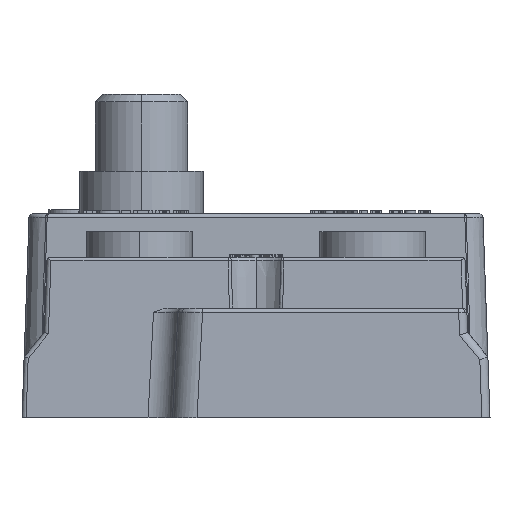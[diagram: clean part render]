
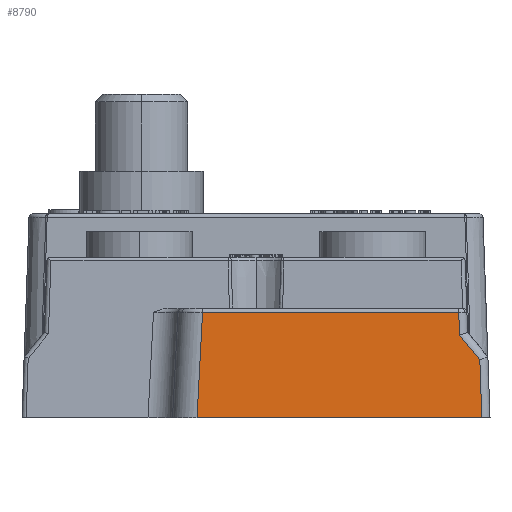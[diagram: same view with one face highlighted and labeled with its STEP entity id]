
A CAD part, front view. The second image highlights one B-rep face of the part: STEP entity #8790.
In plain terms, the highlighted planar face has unit normal (0, -0.999, 0.035).
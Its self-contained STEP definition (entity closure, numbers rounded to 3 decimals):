
#157=PLANE('',#35836);
#3163=LINE('',#50486,#6060);
#3164=LINE('',#50506,#6061);
#3167=LINE('',#50522,#6064);
#3169=LINE('',#50550,#6066);
#3170=LINE('',#50552,#6067);
#3171=LINE('',#50554,#6068);
#6060=VECTOR('',#40006,1.);
#6061=VECTOR('',#40009,1.);
#6064=VECTOR('',#40014,1.);
#6066=VECTOR('',#40022,1.);
#6067=VECTOR('',#40025,1.);
#6068=VECTOR('',#40026,1.);
#8790=ADVANCED_FACE('',(#10776),#157,.T.);
#10776=FACE_OUTER_BOUND('',#12579,.T.);
#12579=EDGE_LOOP('',(#16155,#16156,#16157,#16158,#16159,#16160));
#16155=ORIENTED_EDGE('',*,*,#29674,.T.);
#16156=ORIENTED_EDGE('',*,*,#29675,.T.);
#16157=ORIENTED_EDGE('',*,*,#29676,.T.);
#16158=ORIENTED_EDGE('',*,*,#29663,.T.);
#16159=ORIENTED_EDGE('',*,*,#29659,.T.);
#16160=ORIENTED_EDGE('',*,*,#29668,.T.);
#26105=VERTEX_POINT('',#50125);
#26222=VERTEX_POINT('',#50485);
#26223=VERTEX_POINT('',#50487);
#26226=VERTEX_POINT('',#50507);
#26232=VERTEX_POINT('',#50549);
#26233=VERTEX_POINT('',#50553);
#29659=EDGE_CURVE('',#26223,#26222,#3163,.T.);
#29663=EDGE_CURVE('',#26226,#26223,#3164,.T.);
#29668=EDGE_CURVE('',#26222,#26105,#3167,.T.);
#29674=EDGE_CURVE('',#26105,#26232,#3169,.T.);
#29675=EDGE_CURVE('',#26232,#26233,#3170,.T.);
#29676=EDGE_CURVE('',#26233,#26226,#3171,.T.);
#35836=AXIS2_PLACEMENT_3D('',#50555,#40027,#40028);
#40006=DIRECTION('',(-0.64,0.027,0.768));
#40009=DIRECTION('',(-0.035,0.035,0.999));
#40014=DIRECTION('',(-0.035,0.035,0.999));
#40022=DIRECTION('',(-1.,0.,0.));
#40025=DIRECTION('',(-0.052,-0.035,-0.998));
#40026=DIRECTION('',(1.,0.,0.));
#40027=DIRECTION('',(0.,-0.999,0.035));
#40028=DIRECTION('',(0.,-0.035,-0.999));
#50125=CARTESIAN_POINT('',(29.998,-99.005,160.166));
#50485=CARTESIAN_POINT('',(30.102,-99.11,157.184));
#50486=CARTESIAN_POINT('',(30.352,-99.12,156.884));
#50487=CARTESIAN_POINT('',(32.725,-99.219,154.037));
#50506=CARTESIAN_POINT('',(32.797,-99.291,151.981));
#50507=CARTESIAN_POINT('',(32.988,-99.483,146.492));
#50522=CARTESIAN_POINT('',(30.287,-99.294,151.893));
#50549=CARTESIAN_POINT('',(-3.173,-99.005,160.166));
#50550=CARTESIAN_POINT('',(-3.146,-99.005,160.166));
#50552=CARTESIAN_POINT('',(-3.634,-99.313,151.354));
#50553=CARTESIAN_POINT('',(-3.889,-99.483,146.492));
#50554=CARTESIAN_POINT('',(-26.404,-99.483,146.492));
#50555=CARTESIAN_POINT('',(3.747,-99.327,150.968));
